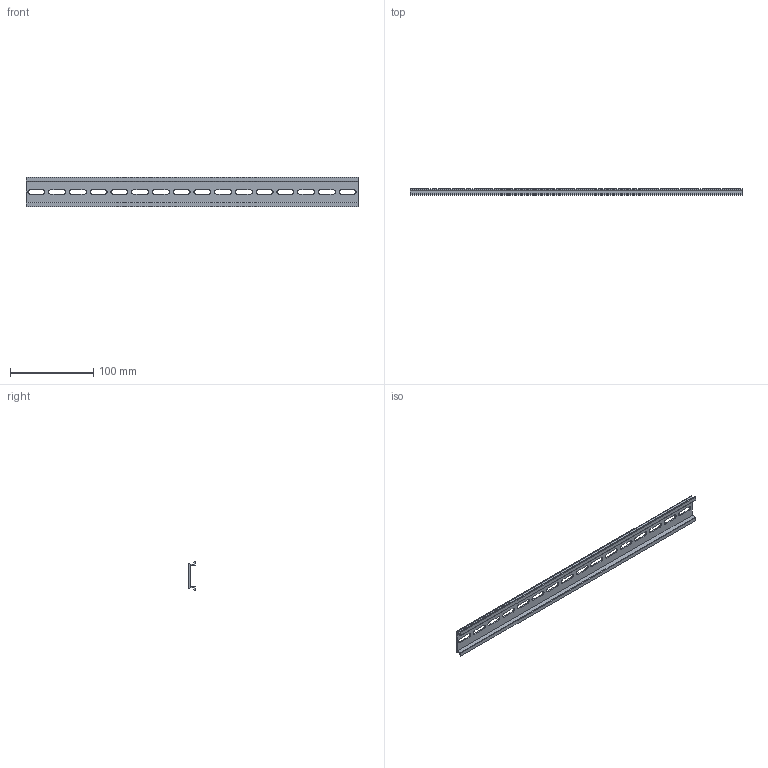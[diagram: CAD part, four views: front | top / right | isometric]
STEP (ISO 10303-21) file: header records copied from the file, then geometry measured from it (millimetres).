
FILE_DESCRIPTION( (''), '2;1');
FILE_NAME ('CVICAD02.15516.DIN-RAIL400_7429.stp','2020-09-01T14:18:35',(''),(''),'spGate 12.6.6','','');
FILE_SCHEMA (('AUTOMOTIVE_DESIGN'));
Length unit declared in the file: millimetre
Bounding box: 400 x 7.5 x 35 mm (x, y, z)
Volume: 28240 mm3; surface area: 37766.6 mm2
Topology: 1 solids, 1 shells, 84 faces, 246 edges, 164 vertices
Faces by surface type: plane 50, cylinder 34
Entity records: 4781 total; most frequent: CARTESIAN_POINT 494, ORIENTED_EDGE 492, DIRECTION 482, COLOUR_RGB 331, PRESENTATION_STYLE_ASSIGNMENT 331, STYLED_ITEM 331, EDGE_CURVE 246, DRAUGHTING_PRE_DEFINED_CURVE_FONT 246
